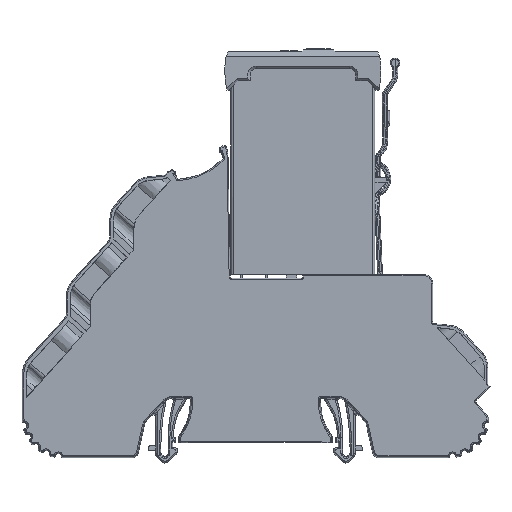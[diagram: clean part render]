
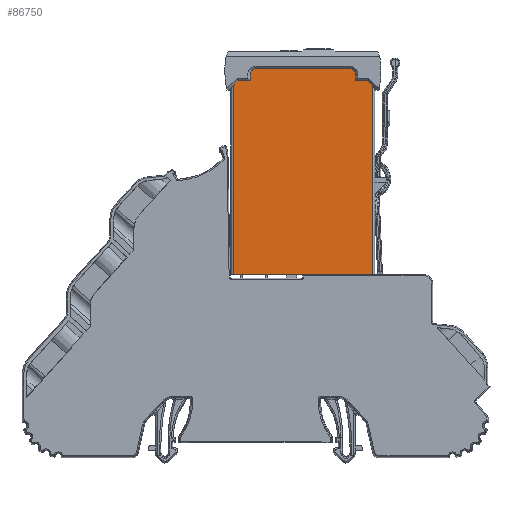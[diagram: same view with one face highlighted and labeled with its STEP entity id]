
A CAD part, left-side view. The second image highlights one B-rep face of the part: STEP entity #86750.
In plain terms, the highlighted planar face has unit normal (-1, 0, 0).
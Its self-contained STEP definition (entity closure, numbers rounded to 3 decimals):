
#445 = LINE ( 'NONE', #73089, #29023 ) ;
#3101 = LINE ( 'NONE', #90354, #25294 ) ;
#3202 = CARTESIAN_POINT ( 'NONE',  ( -6.5, 13.1, 78.503 ) ) ;
#4843 = ORIENTED_EDGE ( 'NONE', *, *, #92335, .F. ) ;
#8836 = VERTEX_POINT ( 'NONE', #65741 ) ;
#11646 = DIRECTION ( 'NONE',  ( 0., 0.707, -0.707 ) ) ;
#13248 = DIRECTION ( 'NONE',  ( 1., 0., 0. ) ) ;
#13544 = CARTESIAN_POINT ( 'NONE',  ( -6.5, 9.1, 83. ) ) ;
#13692 = DIRECTION ( 'NONE',  ( 0., 0.707, 0.707 ) ) ;
#14586 = VECTOR ( 'NONE', #47442, 1000. ) ;
#16167 = EDGE_CURVE ( 'NONE', #48274, #36464, #47678, .T. ) ;
#20670 = ORIENTED_EDGE ( 'NONE', *, *, #22961, .F. ) ;
#20746 = VECTOR ( 'NONE', #88073, 1000. ) ;
#21539 = LINE ( 'NONE', #123598, #108734 ) ;
#22406 = EDGE_CURVE ( 'NONE', #79335, #8836, #445, .T. ) ;
#22623 = ORIENTED_EDGE ( 'NONE', *, *, #61418, .F. ) ;
#22961 = EDGE_CURVE ( 'NONE', #8836, #114866, #100025, .T. ) ;
#23264 = CARTESIAN_POINT ( 'NONE',  ( -6.5, -12.9, 79.753 ) ) ;
#25294 = VECTOR ( 'NONE', #39014, 1000. ) ;
#27008 = CARTESIAN_POINT ( 'NONE',  ( -6.5, -16.4, 77.503 ) ) ;
#27594 = LINE ( 'NONE', #39550, #71942 ) ;
#29023 = VECTOR ( 'NONE', #53988, 1000. ) ;
#29543 = DIRECTION ( 'NONE',  ( 0., 1., 0. ) ) ;
#29988 = DIRECTION ( 'NONE',  ( 1., 0., 0. ) ) ;
#34172 = EDGE_CURVE ( 'NONE', #97522, #47494, #45359, .T. ) ;
#35406 = DIRECTION ( 'NONE',  ( 0., -1., 0. ) ) ;
#35674 = CARTESIAN_POINT ( 'NONE',  ( -6.5, -12.9, 78.503 ) ) ;
#36464 = VERTEX_POINT ( 'NONE', #102834 ) ;
#37149 = CARTESIAN_POINT ( 'NONE',  ( -6.5, -16.4, 83. ) ) ;
#37485 = CARTESIAN_POINT ( 'NONE',  ( -6.5, 12.6, 38. ) ) ;
#39014 = DIRECTION ( 'NONE',  ( 0., -1., 0. ) ) ;
#39463 = DIRECTION ( 'NONE',  ( 0., 0., -1. ) ) ;
#39550 = CARTESIAN_POINT ( 'NONE',  ( -6.5, 11.6, 78.503 ) ) ;
#41513 = ORIENTED_EDGE ( 'NONE', *, *, #102539, .T. ) ;
#42647 = DIRECTION ( 'NONE',  ( 0., -1., 0. ) ) ;
#43707 = VERTEX_POINT ( 'NONE', #84907 ) ;
#44176 = LINE ( 'NONE', #3202, #80714 ) ;
#45359 = LINE ( 'NONE', #13544, #123025 ) ;
#47347 = ORIENTED_EDGE ( 'NONE', *, *, #16167, .F. ) ;
#47442 = DIRECTION ( 'NONE',  ( 0., 0., 1. ) ) ;
#47494 = VERTEX_POINT ( 'NONE', #51919 ) ;
#47678 = LINE ( 'NONE', #37149, #20746 ) ;
#48274 = VERTEX_POINT ( 'NONE', #27008 ) ;
#48733 = VERTEX_POINT ( 'NONE', #125166 ) ;
#50139 = ORIENTED_EDGE ( 'NONE', *, *, #103067, .F. ) ;
#50400 = AXIS2_PLACEMENT_3D ( 'NONE', #110103, #29988, #29543 ) ;
#51088 = VECTOR ( 'NONE', #55078, 1000. ) ;
#51919 = CARTESIAN_POINT ( 'NONE',  ( -6.5, 9.1, 79.753 ) ) ;
#53988 = DIRECTION ( 'NONE',  ( 0., -1., 0. ) ) ;
#55078 = DIRECTION ( 'NONE',  ( 0., -1., 0. ) ) ;
#56679 = ORIENTED_EDGE ( 'NONE', *, *, #34172, .F. ) ;
#57788 = EDGE_CURVE ( 'NONE', #117960, #36464, #3101, .T. ) ;
#61418 = EDGE_CURVE ( 'NONE', #48733, #97522, #125588, .T. ) ;
#61454 = EDGE_CURVE ( 'NONE', #117960, #71433, #101834, .T. ) ;
#63537 = EDGE_CURVE ( 'NONE', #128792, #43707, #44176, .T. ) ;
#65741 = CARTESIAN_POINT ( 'NONE',  ( -6.5, -11.65, 81.003 ) ) ;
#71433 = VERTEX_POINT ( 'NONE', #115018 ) ;
#71942 = VECTOR ( 'NONE', #11646, 1000. ) ;
#73089 = CARTESIAN_POINT ( 'NONE',  ( -6.5, 13.1, 81.003 ) ) ;
#74448 = DIRECTION ( 'NONE',  ( 0., 0., -1. ) ) ;
#77959 = CARTESIAN_POINT ( 'NONE',  ( -6.5, -11.65, 79.753 ) ) ;
#78817 = FACE_OUTER_BOUND ( 'NONE', #82598, .T. ) ;
#79335 = VERTEX_POINT ( 'NONE', #98276 ) ;
#80714 = VECTOR ( 'NONE', #42647, 1000. ) ;
#82598 = EDGE_LOOP ( 'NONE', ( #99779, #47347, #92500, #108441, #4843, #20670, #92052, #50139, #56679, #22623, #41513, #83687 ) ) ;
#83687 = ORIENTED_EDGE ( 'NONE', *, *, #61454, .F. ) ;
#84489 = DIRECTION ( 'NONE',  ( 0., 0., 1. ) ) ;
#84907 = CARTESIAN_POINT ( 'NONE',  ( -6.5, -15.4, 78.503 ) ) ;
#86750 = ADVANCED_FACE ( 'NONE', ( #78817 ), #90163, .F. ) ;
#88073 = DIRECTION ( 'NONE',  ( 0., 0., -1. ) ) ;
#90163 = PLANE ( 'NONE',  #50400 ) ;
#90229 = LINE ( 'NONE', #100153, #114008 ) ;
#90354 = CARTESIAN_POINT ( 'NONE',  ( -6.5, -1.9, 38. ) ) ;
#92052 = ORIENTED_EDGE ( 'NONE', *, *, #22406, .F. ) ;
#92335 = EDGE_CURVE ( 'NONE', #114866, #128792, #90229, .T. ) ;
#92500 = ORIENTED_EDGE ( 'NONE', *, *, #111461, .T. ) ;
#96077 = DIRECTION ( 'NONE',  ( 1., 0., 0. ) ) ;
#96829 = CIRCLE ( 'NONE', #119442, 1.25 ) ;
#97522 = VERTEX_POINT ( 'NONE', #124605 ) ;
#98276 = CARTESIAN_POINT ( 'NONE',  ( -6.5, 7.85, 81.003 ) ) ;
#99779 = ORIENTED_EDGE ( 'NONE', *, *, #57788, .T. ) ;
#100025 = CIRCLE ( 'NONE', #108752, 1.25 ) ;
#100153 = CARTESIAN_POINT ( 'NONE',  ( -6.5, -12.9, 83. ) ) ;
#101834 = LINE ( 'NONE', #119232, #14586 ) ;
#102539 = EDGE_CURVE ( 'NONE', #48733, #71433, #27594, .T. ) ;
#102834 = CARTESIAN_POINT ( 'NONE',  ( -6.5, -16.4, 38. ) ) ;
#103067 = EDGE_CURVE ( 'NONE', #47494, #79335, #96829, .T. ) ;
#108441 = ORIENTED_EDGE ( 'NONE', *, *, #63537, .F. ) ;
#108734 = VECTOR ( 'NONE', #13692, 1000. ) ;
#108752 = AXIS2_PLACEMENT_3D ( 'NONE', #77959, #96077, #35406 ) ;
#110103 = CARTESIAN_POINT ( 'NONE',  ( -6.5, 13.1, 83. ) ) ;
#111461 = EDGE_CURVE ( 'NONE', #48274, #43707, #21539, .T. ) ;
#114008 = VECTOR ( 'NONE', #39463, 1000. ) ;
#114866 = VERTEX_POINT ( 'NONE', #23264 ) ;
#115018 = CARTESIAN_POINT ( 'NONE',  ( -6.5, 12.6, 77.503 ) ) ;
#115091 = CARTESIAN_POINT ( 'NONE',  ( -6.5, 7.85, 79.753 ) ) ;
#115703 = CARTESIAN_POINT ( 'NONE',  ( -6.5, 13.1, 78.503 ) ) ;
#117960 = VERTEX_POINT ( 'NONE', #37485 ) ;
#119232 = CARTESIAN_POINT ( 'NONE',  ( -6.5, 12.6, 83. ) ) ;
#119442 = AXIS2_PLACEMENT_3D ( 'NONE', #115091, #13248, #74448 ) ;
#123025 = VECTOR ( 'NONE', #84489, 1000. ) ;
#123598 = CARTESIAN_POINT ( 'NONE',  ( -6.5, -16.4, 77.503 ) ) ;
#124605 = CARTESIAN_POINT ( 'NONE',  ( -6.5, 9.1, 78.503 ) ) ;
#125166 = CARTESIAN_POINT ( 'NONE',  ( -6.5, 11.6, 78.503 ) ) ;
#125588 = LINE ( 'NONE', #115703, #51088 ) ;
#128792 = VERTEX_POINT ( 'NONE', #35674 ) ;
